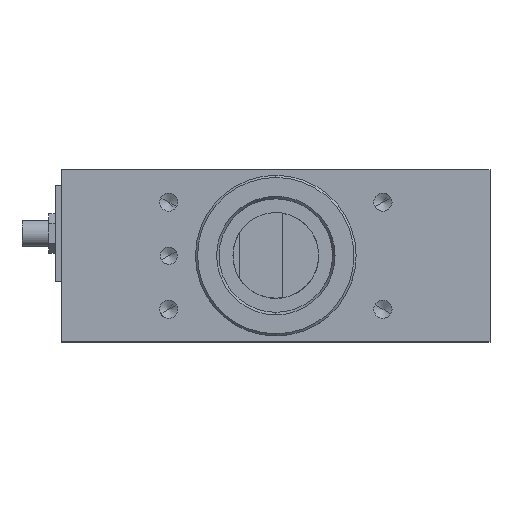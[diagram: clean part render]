
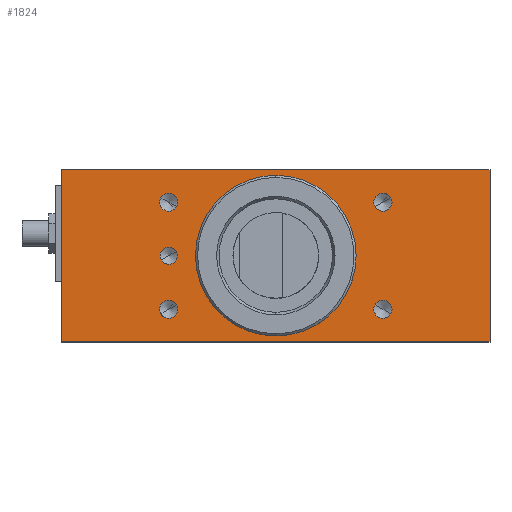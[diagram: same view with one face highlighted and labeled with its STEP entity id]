
A CAD part, top view. The second image highlights one B-rep face of the part: STEP entity #1824.
In plain terms, the highlighted planar face has unit normal (0, 0, 1).
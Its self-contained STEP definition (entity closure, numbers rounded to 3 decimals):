
#1703=AXIS2_PLACEMENT_3D('Plane Axis2P3D',#1700,#1701,#1702) ;
#1718=AXIS2_PLACEMENT_3D('Circle Axis2P3D',#1716,#1717,$) ;
#1727=AXIS2_PLACEMENT_3D('Circle Axis2P3D',#1725,#1726,$) ;
#1736=AXIS2_PLACEMENT_3D('Circle Axis2P3D',#1734,#1735,$) ;
#1745=AXIS2_PLACEMENT_3D('Circle Axis2P3D',#1743,#1744,$) ;
#1754=AXIS2_PLACEMENT_3D('Circle Axis2P3D',#1752,#1753,$) ;
#1763=AXIS2_PLACEMENT_3D('Circle Axis2P3D',#1761,#1762,$) ;
#1772=AXIS2_PLACEMENT_3D('Circle Axis2P3D',#1770,#1771,$) ;
#1781=AXIS2_PLACEMENT_3D('Circle Axis2P3D',#1779,#1780,$) ;
#1790=AXIS2_PLACEMENT_3D('Circle Axis2P3D',#1788,#1789,$) ;
#1799=AXIS2_PLACEMENT_3D('Circle Axis2P3D',#1797,#1798,$) ;
#1808=AXIS2_PLACEMENT_3D('Circle Axis2P3D',#1806,#1807,$) ;
#1817=AXIS2_PLACEMENT_3D('Circle Axis2P3D',#1815,#1816,$) ;
#1089=CARTESIAN_POINT('Vertex',(-100.,40.,0.)) ;
#1092=CARTESIAN_POINT('Line Origine',(0.,40.,0.)) ;
#1096=CARTESIAN_POINT('Vertex',(100.,40.,0.)) ;
#1260=CARTESIAN_POINT('Vertex',(-100.,-40.,0.)) ;
#1263=CARTESIAN_POINT('Line Origine',(-100.,0.,0.)) ;
#1443=CARTESIAN_POINT('Vertex',(100.,-40.,0.)) ;
#1446=CARTESIAN_POINT('Line Origine',(0.,-40.,0.)) ;
#1700=CARTESIAN_POINT('Axis2P3D Location',(0.,0.,0.)) ;
#1705=CARTESIAN_POINT('Line Origine',(100.,0.,0.)) ;
#1716=CARTESIAN_POINT('Axis2P3D Location',(50.,-25.,0.)) ;
#1720=CARTESIAN_POINT('Vertex',(50.,-29.25,0.)) ;
#1722=CARTESIAN_POINT('Vertex',(50.,-20.75,0.)) ;
#1725=CARTESIAN_POINT('Axis2P3D Location',(50.,-25.,0.)) ;
#1734=CARTESIAN_POINT('Axis2P3D Location',(-50.,25.,0.)) ;
#1738=CARTESIAN_POINT('Vertex',(-50.,29.25,0.)) ;
#1740=CARTESIAN_POINT('Vertex',(-50.,20.75,0.)) ;
#1743=CARTESIAN_POINT('Axis2P3D Location',(-50.,25.,0.)) ;
#1752=CARTESIAN_POINT('Axis2P3D Location',(-50.,-25.,0.)) ;
#1756=CARTESIAN_POINT('Vertex',(-50.,-20.75,0.)) ;
#1758=CARTESIAN_POINT('Vertex',(-50.,-29.25,0.)) ;
#1761=CARTESIAN_POINT('Axis2P3D Location',(-50.,-25.,0.)) ;
#1770=CARTESIAN_POINT('Axis2P3D Location',(0.,0.,0.)) ;
#1774=CARTESIAN_POINT('Vertex',(0.,-37.5,0.)) ;
#1776=CARTESIAN_POINT('Vertex',(0.,37.5,0.)) ;
#1779=CARTESIAN_POINT('Axis2P3D Location',(0.,0.,0.)) ;
#1788=CARTESIAN_POINT('Axis2P3D Location',(-50.,0.,0.)) ;
#1792=CARTESIAN_POINT('Vertex',(-50.,4.,0.)) ;
#1794=CARTESIAN_POINT('Vertex',(-50.,-4.,0.)) ;
#1797=CARTESIAN_POINT('Axis2P3D Location',(-50.,0.,0.)) ;
#1806=CARTESIAN_POINT('Axis2P3D Location',(50.,25.,0.)) ;
#1810=CARTESIAN_POINT('Vertex',(50.,20.75,0.)) ;
#1812=CARTESIAN_POINT('Vertex',(50.,29.25,0.)) ;
#1815=CARTESIAN_POINT('Axis2P3D Location',(50.,25.,0.)) ;
#1093=DIRECTION('Vector Direction',(1.,0.,0.)) ;
#1264=DIRECTION('Vector Direction',(0.,-1.,0.)) ;
#1447=DIRECTION('Vector Direction',(1.,0.,0.)) ;
#1701=DIRECTION('Axis2P3D Direction',(0.,-0.,1.)) ;
#1702=DIRECTION('Axis2P3D XDirection',(0.,1.,0.)) ;
#1706=DIRECTION('Vector Direction',(0.,-1.,0.)) ;
#1717=DIRECTION('Axis2P3D Direction',(0.,-0.,1.)) ;
#1726=DIRECTION('Axis2P3D Direction',(0.,-0.,1.)) ;
#1735=DIRECTION('Axis2P3D Direction',(0.,-0.,1.)) ;
#1744=DIRECTION('Axis2P3D Direction',(0.,-0.,1.)) ;
#1753=DIRECTION('Axis2P3D Direction',(0.,-0.,1.)) ;
#1762=DIRECTION('Axis2P3D Direction',(0.,-0.,1.)) ;
#1771=DIRECTION('Axis2P3D Direction',(0.,-0.,1.)) ;
#1780=DIRECTION('Axis2P3D Direction',(0.,-0.,1.)) ;
#1789=DIRECTION('Axis2P3D Direction',(0.,-0.,1.)) ;
#1798=DIRECTION('Axis2P3D Direction',(0.,-0.,1.)) ;
#1807=DIRECTION('Axis2P3D Direction',(0.,-0.,1.)) ;
#1816=DIRECTION('Axis2P3D Direction',(0.,-0.,1.)) ;
#1094=VECTOR('Line Direction',#1093,1.) ;
#1265=VECTOR('Line Direction',#1264,1.) ;
#1448=VECTOR('Line Direction',#1447,1.) ;
#1707=VECTOR('Line Direction',#1706,1.) ;
#1711=ORIENTED_EDGE('',*,*,#1709,.F.) ;
#1712=ORIENTED_EDGE('',*,*,#1098,.F.) ;
#1713=ORIENTED_EDGE('',*,*,#1267,.T.) ;
#1714=ORIENTED_EDGE('',*,*,#1450,.T.) ;
#1731=ORIENTED_EDGE('',*,*,#1724,.T.) ;
#1732=ORIENTED_EDGE('',*,*,#1729,.T.) ;
#1749=ORIENTED_EDGE('',*,*,#1742,.T.) ;
#1750=ORIENTED_EDGE('',*,*,#1747,.T.) ;
#1767=ORIENTED_EDGE('',*,*,#1760,.F.) ;
#1768=ORIENTED_EDGE('',*,*,#1765,.F.) ;
#1785=ORIENTED_EDGE('',*,*,#1778,.F.) ;
#1786=ORIENTED_EDGE('',*,*,#1783,.F.) ;
#1803=ORIENTED_EDGE('',*,*,#1796,.F.) ;
#1804=ORIENTED_EDGE('',*,*,#1801,.F.) ;
#1821=ORIENTED_EDGE('',*,*,#1814,.F.) ;
#1822=ORIENTED_EDGE('',*,*,#1819,.F.) ;
#1733=FACE_BOUND('',#1730,.T.) ;
#1751=FACE_BOUND('',#1748,.T.) ;
#1769=FACE_BOUND('',#1766,.T.) ;
#1787=FACE_BOUND('',#1784,.T.) ;
#1805=FACE_BOUND('',#1802,.T.) ;
#1823=FACE_BOUND('',#1820,.T.) ;
#1824=ADVANCED_FACE('*DIT1\\*DIT2',(#1715,#1733,#1751,#1769,#1787,#1805,#1823),#1704,.T.) ;
#1719=CIRCLE('generated circle',#1718,4.25) ;
#1728=CIRCLE('generated circle',#1727,4.25) ;
#1737=CIRCLE('generated circle',#1736,4.25) ;
#1746=CIRCLE('generated circle',#1745,4.25) ;
#1755=CIRCLE('generated circle',#1754,4.25) ;
#1764=CIRCLE('generated circle',#1763,4.25) ;
#1773=CIRCLE('generated circle',#1772,37.5) ;
#1782=CIRCLE('generated circle',#1781,37.5) ;
#1791=CIRCLE('generated circle',#1790,4.) ;
#1800=CIRCLE('generated circle',#1799,4.) ;
#1809=CIRCLE('generated circle',#1808,4.25) ;
#1818=CIRCLE('generated circle',#1817,4.25) ;
#1098=EDGE_CURVE('',#1090,#1097,#1095,.T.) ;
#1267=EDGE_CURVE('',#1090,#1261,#1266,.T.) ;
#1450=EDGE_CURVE('',#1261,#1444,#1449,.T.) ;
#1709=EDGE_CURVE('',#1097,#1444,#1708,.T.) ;
#1724=EDGE_CURVE('',#1721,#1723,#1719,.F.) ;
#1729=EDGE_CURVE('',#1723,#1721,#1728,.F.) ;
#1742=EDGE_CURVE('',#1739,#1741,#1737,.F.) ;
#1747=EDGE_CURVE('',#1741,#1739,#1746,.F.) ;
#1760=EDGE_CURVE('',#1757,#1759,#1755,.T.) ;
#1765=EDGE_CURVE('',#1759,#1757,#1764,.T.) ;
#1778=EDGE_CURVE('',#1775,#1777,#1773,.T.) ;
#1783=EDGE_CURVE('',#1777,#1775,#1782,.T.) ;
#1796=EDGE_CURVE('',#1793,#1795,#1791,.T.) ;
#1801=EDGE_CURVE('',#1795,#1793,#1800,.T.) ;
#1814=EDGE_CURVE('',#1811,#1813,#1809,.T.) ;
#1819=EDGE_CURVE('',#1813,#1811,#1818,.T.) ;
#1710=EDGE_LOOP('',(#1711,#1712,#1713,#1714)) ;
#1730=EDGE_LOOP('',(#1731,#1732)) ;
#1748=EDGE_LOOP('',(#1749,#1750)) ;
#1766=EDGE_LOOP('',(#1767,#1768)) ;
#1784=EDGE_LOOP('',(#1785,#1786)) ;
#1802=EDGE_LOOP('',(#1803,#1804)) ;
#1820=EDGE_LOOP('',(#1821,#1822)) ;
#1715=FACE_OUTER_BOUND('',#1710,.T.) ;
#1095=LINE('Line',#1092,#1094) ;
#1266=LINE('Line',#1263,#1265) ;
#1449=LINE('Line',#1446,#1448) ;
#1708=LINE('Line',#1705,#1707) ;
#1704=PLANE('Plane',#1703) ;
#1090=VERTEX_POINT('',#1089) ;
#1097=VERTEX_POINT('',#1096) ;
#1261=VERTEX_POINT('',#1260) ;
#1444=VERTEX_POINT('',#1443) ;
#1721=VERTEX_POINT('',#1720) ;
#1723=VERTEX_POINT('',#1722) ;
#1739=VERTEX_POINT('',#1738) ;
#1741=VERTEX_POINT('',#1740) ;
#1757=VERTEX_POINT('',#1756) ;
#1759=VERTEX_POINT('',#1758) ;
#1775=VERTEX_POINT('',#1774) ;
#1777=VERTEX_POINT('',#1776) ;
#1793=VERTEX_POINT('',#1792) ;
#1795=VERTEX_POINT('',#1794) ;
#1811=VERTEX_POINT('',#1810) ;
#1813=VERTEX_POINT('',#1812) ;
